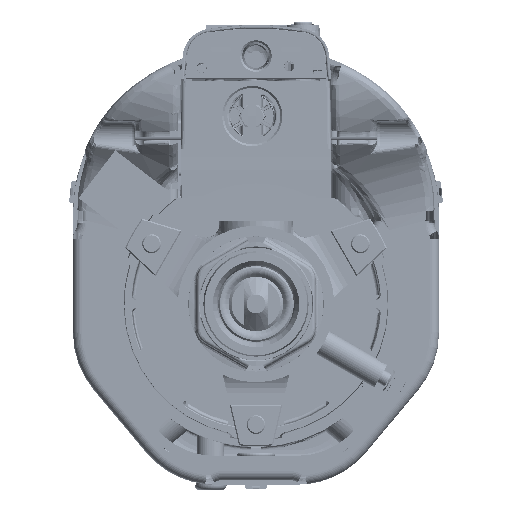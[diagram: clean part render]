
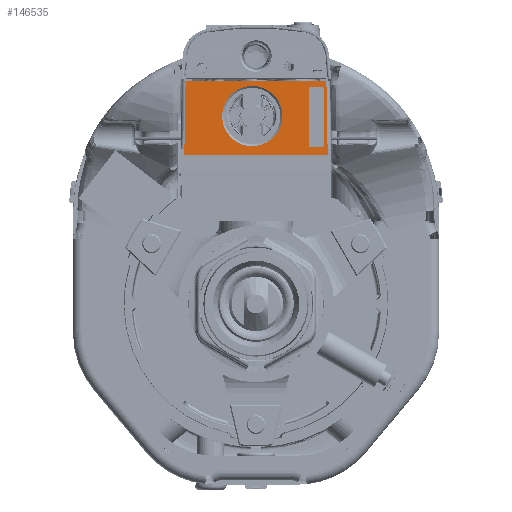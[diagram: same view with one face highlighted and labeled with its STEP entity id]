
A CAD part, front view. The second image highlights one B-rep face of the part: STEP entity #146535.
In plain terms, the highlighted planar face has unit normal (0, -1, 0).
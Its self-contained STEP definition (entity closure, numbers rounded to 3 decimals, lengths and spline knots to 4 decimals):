
#136239=DIRECTION('',(1.,0.,0.));
#136240=VECTOR('',#136239,4.7435);
#136241=CARTESIAN_POINT('',(-2.3718,-1.,4.94));
#136242=LINE('',#136241,#136240);
#136243=DIRECTION('',(-0.017,0.,1.));
#136244=VECTOR('',#136243,0.185);
#136245=CARTESIAN_POINT('',(-2.3718,-1.,4.94));
#136246=LINE('',#136245,#136244);
#136247=DIRECTION('',(-0.017,0.,-1.));
#136248=VECTOR('',#136247,2.2703);
#136249=CARTESIAN_POINT('',(-2.3354,-1.,7.395));
#136250=LINE('',#136249,#136248);
#136251=DIRECTION('',(1.,0.,0.));
#136252=VECTOR('',#136251,4.6707);
#136253=CARTESIAN_POINT('',(-2.3354,-1.,7.395));
#136254=LINE('',#136253,#136252);
#136255=DIRECTION('',(-0.017,0.,1.));
#136256=VECTOR('',#136255,2.2703);
#136257=CARTESIAN_POINT('',(2.375,-1.,5.125));
#136258=LINE('',#136257,#136256);
#136259=DIRECTION('',(-0.017,0.,-1.));
#136260=VECTOR('',#136259,0.185);
#136261=CARTESIAN_POINT('',(2.375,-1.,5.125));
#136262=LINE('',#136261,#136260);
#136263=CARTESIAN_POINT('',(-0.125,-1.,6.232));
#136264=DIRECTION('',(0.,1.,0.));
#136265=DIRECTION('',(0.,0.,1.));
#136266=AXIS2_PLACEMENT_3D('',#136263,#136264,#136265);
#136268=CARTESIAN_POINT('',(-0.125,-1.,6.232));
#136269=DIRECTION('',(0.,1.,0.));
#136270=DIRECTION('',(0.,0.,-1.));
#136271=AXIS2_PLACEMENT_3D('',#136268,#136269,#136270);
#140355=CARTESIAN_POINT('',(-2.3354,-1.,7.395));
#140357=CARTESIAN_POINT('',(-2.375,-1.,5.125));
#140387=CARTESIAN_POINT('',(2.375,-1.,5.125));
#145007=VERTEX_POINT('',#140357);
#145009=VERTEX_POINT('',#140387);
#145344=VERTEX_POINT('',#140355);
#145345=CARTESIAN_POINT('',(2.3354,-1.,7.395));
#145346=VERTEX_POINT('',#145345);
#145370=CARTESIAN_POINT('',(-2.3718,-1.,4.94));
#145371=CARTESIAN_POINT('',(2.3718,-1.,4.94));
#145372=VERTEX_POINT('',#145370);
#145373=VERTEX_POINT('',#145371);
#145573=CARTESIAN_POINT('',(-0.125,-1.,7.2305));
#145574=CARTESIAN_POINT('',(-0.125,-1.,5.2335));
#145575=VERTEX_POINT('',#145573);
#145576=VERTEX_POINT('',#145574);
#146510=CARTESIAN_POINT('',(-0.125,-1.,6.175));
#146511=DIRECTION('',(0.,-1.,0.));
#146512=DIRECTION('',(1.,0.,0.));
#146513=AXIS2_PLACEMENT_3D('',#146510,#146511,#146512);
#146514=PLANE('',#146513);
#146516=ORIENTED_EDGE('',*,*,#146515,.F.);
#146518=ORIENTED_EDGE('',*,*,#146517,.T.);
#146520=ORIENTED_EDGE('',*,*,#146519,.F.);
#146522=ORIENTED_EDGE('',*,*,#146521,.T.);
#146524=ORIENTED_EDGE('',*,*,#146523,.F.);
#146526=ORIENTED_EDGE('',*,*,#146525,.T.);
#146527=EDGE_LOOP('',(#146516,#146518,#146520,#146522,#146524,#146526));
#146528=FACE_OUTER_BOUND('',#146527,.F.);
#146530=ORIENTED_EDGE('',*,*,#146529,.F.);
#146532=ORIENTED_EDGE('',*,*,#146531,.F.);
#146533=EDGE_LOOP('',(#146530,#146532));
#146534=FACE_BOUND('',#146533,.F.);
#146535=ADVANCED_FACE('',(#146528,#146534),#146514,.T.);
#136267=CIRCLE('',#136266,0.9985);
#136272=CIRCLE('',#136271,0.9985);
#146515=EDGE_CURVE('',#145372,#145373,#136242,.T.);
#146517=EDGE_CURVE('',#145372,#145007,#136246,.T.);
#146519=EDGE_CURVE('',#145344,#145007,#136250,.T.);
#146521=EDGE_CURVE('',#145344,#145346,#136254,.T.);
#146523=EDGE_CURVE('',#145009,#145346,#136258,.T.);
#146525=EDGE_CURVE('',#145009,#145373,#136262,.T.);
#146529=EDGE_CURVE('',#145575,#145576,#136267,.T.);
#146531=EDGE_CURVE('',#145576,#145575,#136272,.T.);
